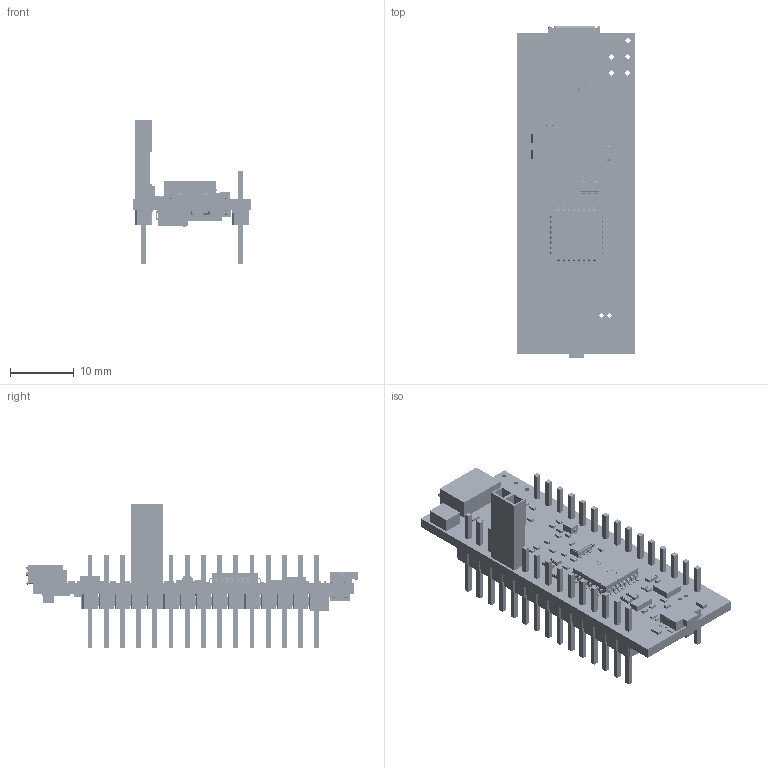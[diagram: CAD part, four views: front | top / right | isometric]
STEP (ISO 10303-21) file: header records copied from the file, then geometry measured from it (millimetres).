
FILE_DESCRIPTION(('Open CASCADE Model'),'2;1');
FILE_NAME('Open CASCADE Shape Model','2019-03-04T10:41:45',('Author'),( 'Open CASCADE'),'Open CASCADE STEP processor 6.8','Open CASCADE 6.8' ,'Unknown');
FILE_SCHEMA(('AUTOMOTIVE_DESIGN { 1 0 10303 214 1 1 1 1 }'));
Length unit declared in the file: millimetre
Products named in the file (204): PCB; Board; R7; R0402; 6343743744; Extruded; SB8; R0603; 6343744128; B1; KSS221GLFS; 6343744512; 6343744320; C26; C0402; 6343741056; C25; C18; C15; C16; C13; C2; C1; C6; C5; C22; C23; C4; C20; C21; C11; C10; C8; C9; C7; C19; C17; C12; C14; C24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
Assembly tree (483 placements, depth 8):
  PCB
    Board
    R7
      R0402
      6343743744
        Extruded
    SB8
      R0603
      6343744128
        Extruded
    B1
      KSS221GLFS
      6343744512
        Extruded
      6343744320
        Extruded
    C26
      C0402
      6343741056
        Extruded
    C25
      C0402
      6343741056
        Extruded
    C18
      C0402
      6343741056
        Extruded
    C15
      C0402
      6343741056
        Extruded
    C16
      C0402
      6343741056
        Extruded
    C13
      C0402
      6343741056
        Extruded
    C2
      C0402
      6343741056
        Extruded
    C1
      C0402
      6343743744
        Extruded
    C6
      C0402
      6343743744
        Extruded
    C5
      C0402
      6343743744
        Extruded
    C22
      C0402
      6343741056
        Extruded
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Bounding box: 18.54 x 52.06 x 22.5 mm (x, y, z)
Topology: 448 solids, 477 shells, 16570 faces, 39528 edges, 22963 vertices
Faces by surface type: plane 6792, cylinder 4971, bspline 3209, sphere 1198, torus 207, revolution 192, cone 1
Full cylindrical faces by diameter (mm): 0.7 x4, 0.8 x3, 0.9 x7, 1.1 x30
Entity records: 131293 total; most frequent: CARTESIAN_POINT 37384, ORIENTED_EDGE 17244, DIRECTION 16150, EDGE_CURVE 8660, LINE 6126, VECTOR 6126, VERTEX_POINT 5608, AXIS2_PLACEMENT_3D 5008
